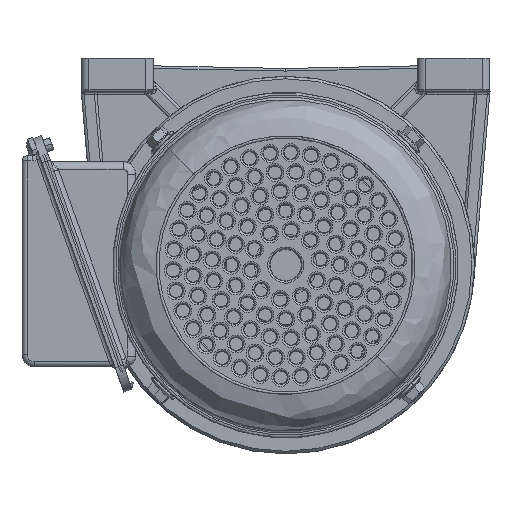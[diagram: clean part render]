
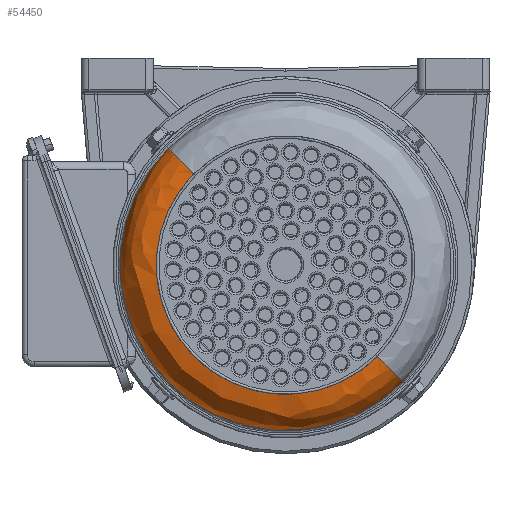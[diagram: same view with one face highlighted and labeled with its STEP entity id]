
A CAD part, front view. The second image highlights one B-rep face of the part: STEP entity #54450.
In plain terms, the highlighted free-form (B-spline) face has degree [3, 3] with [4, 4] control points.
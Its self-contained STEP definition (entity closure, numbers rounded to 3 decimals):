
#6211 = EDGE_CURVE ( 'NONE', #54494, #6213, #49249, .T. ) ;
#6212 = ORIENTED_EDGE ( 'NONE', *, *, #6211, .T. ) ;
#6213 = VERTEX_POINT ( 'NONE', #49313 ) ;
#6214 = VERTEX_POINT ( 'NONE', #49312 ) ;
#27514 = CARTESIAN_POINT ( 'NONE',  ( 50., -100., 43. ) ) ;
#27716 = CARTESIAN_POINT ( 'NONE',  ( 50., 0., 43. ) ) ;
#27944 = CARTESIAN_POINT ( 'NONE',  ( -58.201, -116.402, 43. ) ) ;
#27945 = CARTESIAN_POINT ( 'NONE',  ( -58.201, 0., 43. ) ) ;
#28075 = CARTESIAN_POINT ( 'NONE',  ( 58.201, -116.402, 43. ) ) ;
#28076 = CARTESIAN_POINT ( 'NONE',  ( 58.201, 0., 43. ) ) ;
#28326 = CARTESIAN_POINT ( 'NONE',  ( -64., -128., 37.201 ) ) ;
#28327 = CARTESIAN_POINT ( 'NONE',  ( -64., 0., 37.201 ) ) ;
#28478 = FACE_OUTER_BOUND ( 'NONE', #54448, .T. ) ;
#28479 = DIRECTION ( 'NONE',  ( 1., 0., 0. ) ) ;
#28480 = DIRECTION ( 'NONE',  ( 0., 0., 1. ) ) ;
#28481 = AXIS2_PLACEMENT_3D ( 'NONE', #28484, #28480, #28479 ) ;
#28482 = CIRCLE ( 'NONE', #28481, 50. ) ;
#28484 = CARTESIAN_POINT ( 'NONE',  ( 0., 0., 43. ) ) ;
#28527 = CARTESIAN_POINT ( 'NONE',  ( -50., -100., 43. ) ) ;
#28528 = CARTESIAN_POINT ( 'NONE',  ( -50., 0., 43. ) ) ;
#28529 =( BOUNDED_SURFACE ( )  B_SPLINE_SURFACE ( 3, 3, ( 
 ( #28528, #28527, #27514, #27716 ),
 ( #27945, #27944, #28075, #28076 ),
 ( #28327, #28326, #28550, #28549 ),
 ( #28548, #28547, #28546, #28545 ) ),
 .UNSPECIFIED., .F., .F., .F. ) 
 B_SPLINE_SURFACE_WITH_KNOTS ( ( 4, 4 ),
 ( 4, 4 ),
 ( 0., 1. ),
 ( 0., 1. ),
 .UNSPECIFIED. ) 
 GEOMETRIC_REPRESENTATION_ITEM ( )  RATIONAL_B_SPLINE_SURFACE ( (
 ( 1., 0.333, 0.333, 1.),
 ( 0.805, 0.268, 0.268, 0.805),
 ( 0.805, 0.268, 0.268, 0.805),
 ( 1., 0.333, 0.333, 1.) ) ) 
 REPRESENTATION_ITEM ( '' )  SURFACE ( )  );
#28545 = CARTESIAN_POINT ( 'NONE',  ( 64., 0., 29. ) ) ;
#28546 = CARTESIAN_POINT ( 'NONE',  ( 64., -128., 29. ) ) ;
#28547 = CARTESIAN_POINT ( 'NONE',  ( -64., -128., 29. ) ) ;
#28548 = CARTESIAN_POINT ( 'NONE',  ( -64., 0., 29. ) ) ;
#28549 = CARTESIAN_POINT ( 'NONE',  ( 64., 0., 37.201 ) ) ;
#28550 = CARTESIAN_POINT ( 'NONE',  ( 64., -128., 37.201 ) ) ;
#28567 = AXIS2_PLACEMENT_3D ( 'NONE', #28573, #28571, #28570 ) ;
#28568 = CIRCLE ( 'NONE', #28567, 14. ) ;
#28569 = CARTESIAN_POINT ( 'NONE',  ( 64., 0., 29. ) ) ;
#28570 = DIRECTION ( 'NONE',  ( 1., 0., 0. ) ) ;
#28571 = DIRECTION ( 'NONE',  ( 0., 1., 0. ) ) ;
#28573 = CARTESIAN_POINT ( 'NONE',  ( 50., 0., 29. ) ) ;
#28588 = DIRECTION ( 'NONE',  ( 1., 0., 0. ) ) ;
#28589 = DIRECTION ( 'NONE',  ( 0., 0., -1. ) ) ;
#28590 = CARTESIAN_POINT ( 'NONE',  ( 0., 0., 29. ) ) ;
#28591 = AXIS2_PLACEMENT_3D ( 'NONE', #28590, #28589, #28588 ) ;
#28592 = CIRCLE ( 'NONE', #28591, 64. ) ;
#28642 = CARTESIAN_POINT ( 'NONE',  ( -50., 0., 43. ) ) ;
#49249 = CIRCLE ( 'NONE', #49319, 14. ) ;
#49312 = CARTESIAN_POINT ( 'NONE',  ( 50., 0., 43. ) ) ;
#49313 = CARTESIAN_POINT ( 'NONE',  ( -64., 0., 29. ) ) ;
#49314 = DIRECTION ( 'NONE',  ( -1., 0., 0. ) ) ;
#49315 = DIRECTION ( 'NONE',  ( 0., -1., 0. ) ) ;
#49317 = CARTESIAN_POINT ( 'NONE',  ( -50., 0., 29. ) ) ;
#49319 = AXIS2_PLACEMENT_3D ( 'NONE', #49317, #49315, #49314 ) ;
#54446 = EDGE_CURVE ( 'NONE', #54494, #6214, #28482, .T. ) ;
#54447 = ORIENTED_EDGE ( 'NONE', *, *, #54446, .F. ) ;
#54448 = EDGE_LOOP ( 'NONE', ( #54447, #6212, #54476, #54467 ) ) ;
#54450 = ADVANCED_FACE ( 'NONE', ( #28478 ), #28529, .T. ) ;
#54465 = EDGE_CURVE ( 'NONE', #6214, #54466, #28568, .T. ) ;
#54466 = VERTEX_POINT ( 'NONE', #28569 ) ;
#54467 = ORIENTED_EDGE ( 'NONE', *, *, #54465, .F. ) ;
#54475 = EDGE_CURVE ( 'NONE', #54466, #6213, #28592, .T. ) ;
#54476 = ORIENTED_EDGE ( 'NONE', *, *, #54475, .F. ) ;
#54494 = VERTEX_POINT ( 'NONE', #28642 ) ;
